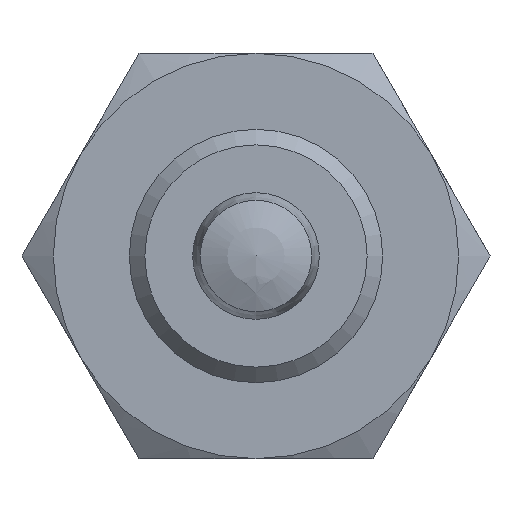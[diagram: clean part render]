
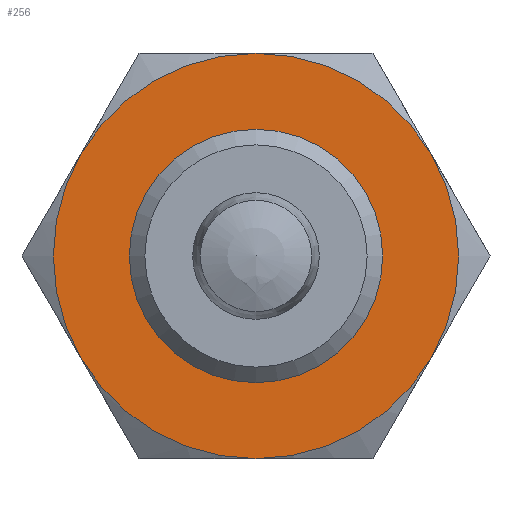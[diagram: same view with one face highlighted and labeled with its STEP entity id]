
A CAD part, front view. The second image highlights one B-rep face of the part: STEP entity #256.
In plain terms, the highlighted planar face has unit normal (0, -1, 0).
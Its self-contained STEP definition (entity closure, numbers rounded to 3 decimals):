
#256 = ADVANCED_FACE( '', ( #383, #384 ), #385, .F. );
#383 = FACE_BOUND( '', #518, .T. );
#384 = FACE_OUTER_BOUND( '', #519, .T. );
#385 = PLANE( '', #520 );
#518 = EDGE_LOOP( '', ( #864 ) );
#519 = EDGE_LOOP( '', ( #865, #866, #867, #868, #869, #870 ) );
#520 = AXIS2_PLACEMENT_3D( '', #871, #872, #873 );
#864 = ORIENTED_EDGE( '', *, *, #996, .F. );
#865 = ORIENTED_EDGE( '', *, *, #991, .T. );
#866 = ORIENTED_EDGE( '', *, *, #993, .T. );
#867 = ORIENTED_EDGE( '', *, *, #995, .T. );
#868 = ORIENTED_EDGE( '', *, *, #964, .T. );
#869 = ORIENTED_EDGE( '', *, *, #989, .T. );
#870 = ORIENTED_EDGE( '', *, *, #990, .T. );
#871 = CARTESIAN_POINT( '', ( 8., 0., 0. ) );
#872 = DIRECTION( '', ( 0., 1., 0. ) );
#873 = DIRECTION( '', ( 0., 0., 1. ) );
#964 = EDGE_CURVE( '', #1116, #1117, #1118, .T. );
#989 = EDGE_CURVE( '', #1117, #1098, #1155, .T. );
#990 = EDGE_CURVE( '', #1098, #1110, #1156, .T. );
#991 = EDGE_CURVE( '', #1110, #1157, #1158, .T. );
#993 = EDGE_CURVE( '', #1157, #1125, #1160, .T. );
#995 = EDGE_CURVE( '', #1125, #1116, #1162, .T. );
#996 = EDGE_CURVE( '', #1163, #1163, #1164, .T. );
#1098 = VERTEX_POINT( '', #1341 );
#1110 = VERTEX_POINT( '', #1379 );
#1116 = VERTEX_POINT( '', #1405 );
#1117 = VERTEX_POINT( '', #1406 );
#1118 = CIRCLE( '', #1407, 8. );
#1125 = VERTEX_POINT( '', #1425 );
#1155 = CIRCLE( '', #1527, 8. );
#1156 = CIRCLE( '', #1528, 8. );
#1157 = VERTEX_POINT( '', #1529 );
#1158 = CIRCLE( '', #1530, 8. );
#1160 = CIRCLE( '', #1537, 8. );
#1162 = CIRCLE( '', #1546, 8. );
#1163 = VERTEX_POINT( '', #1547 );
#1164 = CIRCLE( '', #1548, 5. );
#1341 = CARTESIAN_POINT( '', ( -6.928, 0., -4. ) );
#1379 = CARTESIAN_POINT( '', ( 0., 0., -8. ) );
#1405 = CARTESIAN_POINT( '', ( 0., 0., 8. ) );
#1406 = CARTESIAN_POINT( '', ( -6.928, 0., 4. ) );
#1407 = AXIS2_PLACEMENT_3D( '', #1664, #1665, #1666 );
#1425 = CARTESIAN_POINT( '', ( 6.928, 0., 4. ) );
#1527 = AXIS2_PLACEMENT_3D( '', #1691, #1692, #1693 );
#1528 = AXIS2_PLACEMENT_3D( '', #1694, #1695, #1696 );
#1529 = CARTESIAN_POINT( '', ( 6.928, 0., -4. ) );
#1530 = AXIS2_PLACEMENT_3D( '', #1697, #1698, #1699 );
#1537 = AXIS2_PLACEMENT_3D( '', #1700, #1701, #1702 );
#1546 = AXIS2_PLACEMENT_3D( '', #1703, #1704, #1705 );
#1547 = CARTESIAN_POINT( '', ( 0., 0., -5. ) );
#1548 = AXIS2_PLACEMENT_3D( '', #1706, #1707, #1708 );
#1664 = CARTESIAN_POINT( '', ( 0., 0., 0. ) );
#1665 = DIRECTION( '', ( 0., -1., 0. ) );
#1666 = DIRECTION( '', ( 0., 0., -1. ) );
#1691 = CARTESIAN_POINT( '', ( 0., 0., 0. ) );
#1692 = DIRECTION( '', ( 0., -1., 0. ) );
#1693 = DIRECTION( '', ( 0., 0., -1. ) );
#1694 = CARTESIAN_POINT( '', ( 0., 0., 0. ) );
#1695 = DIRECTION( '', ( 0., -1., 0. ) );
#1696 = DIRECTION( '', ( 0., 0., -1. ) );
#1697 = CARTESIAN_POINT( '', ( 0., 0., 0. ) );
#1698 = DIRECTION( '', ( 0., -1., 0. ) );
#1699 = DIRECTION( '', ( 0., 0., -1. ) );
#1700 = CARTESIAN_POINT( '', ( 0., 0., 0. ) );
#1701 = DIRECTION( '', ( 0., -1., 0. ) );
#1702 = DIRECTION( '', ( 0., 0., -1. ) );
#1703 = CARTESIAN_POINT( '', ( 0., 0., 0. ) );
#1704 = DIRECTION( '', ( 0., -1., 0. ) );
#1705 = DIRECTION( '', ( 0., 0., -1. ) );
#1706 = CARTESIAN_POINT( '', ( 0., 0., 0. ) );
#1707 = DIRECTION( '', ( 0., -1., 0. ) );
#1708 = DIRECTION( '', ( 0., 0., -1. ) );
